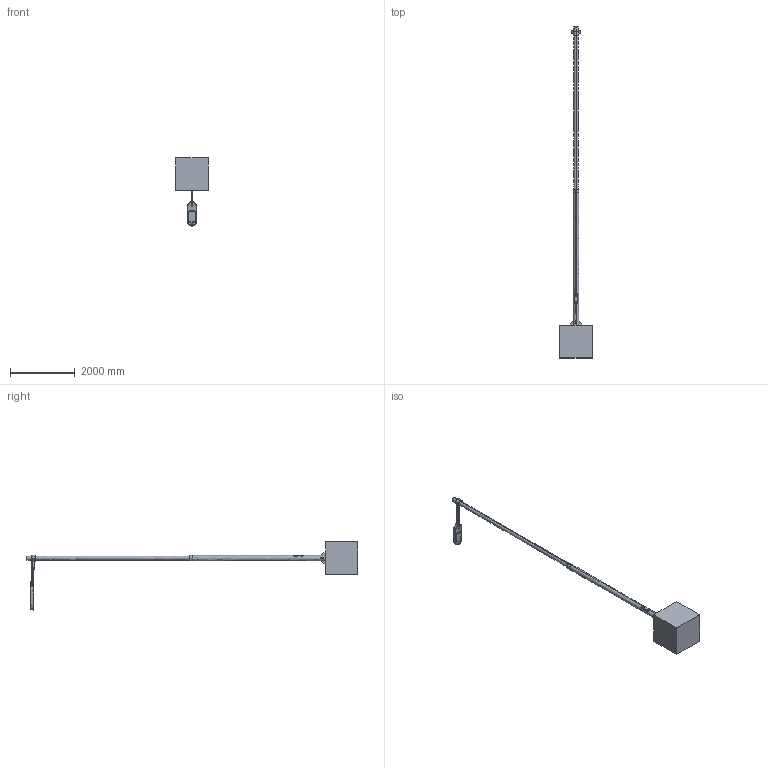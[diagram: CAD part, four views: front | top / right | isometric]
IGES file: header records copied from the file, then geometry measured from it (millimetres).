
Start section: SolidWorks IGES file using analytic representation for surfaces
Global section: file name: C:\SANTACOLE_PDM\Proyectos Catálogo\PROD-P11_014 -- CANDELA LED\6_Técnico comercial\3D WEB\IGES\Farola Candela LED 920cm 2S 1L BRAZO MEDIO.IGS; native system: SolidWorks 2013; preprocessor: SolidWorks 2013; author: jordi.munoz; date: 150527.165051; units: millimetre
Bounding box: 1000 x 10224.5 x 2101.38 mm (x, y, z)
Surface area: 16644466.9 mm2 (no closed solid volume)
Topology: 0 solids, 0 shells, 2387 faces, 23401 edges, 23373 vertices
Faces by surface type: bspline 1714, revolution 673
